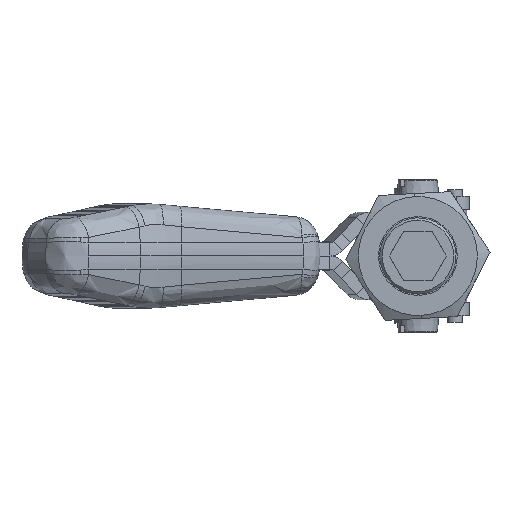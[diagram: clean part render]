
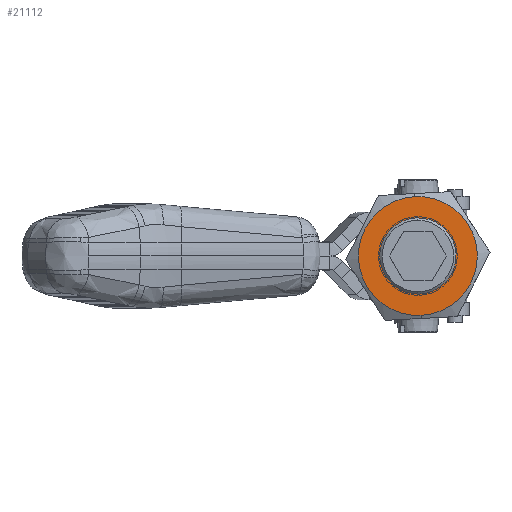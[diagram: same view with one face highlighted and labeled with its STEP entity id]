
A CAD part, left-side view. The second image highlights one B-rep face of the part: STEP entity #21112.
In plain terms, the highlighted planar face has unit normal (-1, 0, 0) as drawn and (0, 1, 0) by its records, which use the part's own axes.
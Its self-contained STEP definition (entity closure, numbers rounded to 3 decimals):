
#1471 = CARTESIAN_POINT ( 'NONE',  ( 0., 4., 0. ) ) ;
#2758 = EDGE_LOOP ( 'NONE', ( #40042, #33410 ) ) ;
#5077 = EDGE_LOOP ( 'NONE', ( #10229, #18580 ) ) ;
#7023 = CARTESIAN_POINT ( 'NONE',  ( 0., 4., 0. ) ) ;
#7475 = CARTESIAN_POINT ( 'NONE',  ( 0., 4., -7.75 ) ) ;
#8693 = DIRECTION ( 'NONE',  ( 0., -1., 0. ) ) ;
#8839 = CIRCLE ( 'NONE', #42208, 12.067 ) ;
#8877 = PLANE ( 'NONE',  #10932 ) ;
#9379 = VERTEX_POINT ( 'NONE', #29900 ) ;
#9584 = DIRECTION ( 'NONE',  ( 0., 0., 1. ) ) ;
#10229 = ORIENTED_EDGE ( 'NONE', *, *, #30725, .T. ) ;
#10932 = AXIS2_PLACEMENT_3D ( 'NONE', #16731, #19578, #9584 ) ;
#11071 = DIRECTION ( 'NONE',  ( 0., -1., 0. ) ) ;
#11534 = DIRECTION ( 'NONE',  ( 0., 0., 1. ) ) ;
#12528 = CARTESIAN_POINT ( 'NONE',  ( 0., 4., 0. ) ) ;
#13109 = CARTESIAN_POINT ( 'NONE',  ( 0., 4., 12.067 ) ) ;
#13125 = DIRECTION ( 'NONE',  ( 0., -1., 0. ) ) ;
#13198 = AXIS2_PLACEMENT_3D ( 'NONE', #13563, #38250, #13329 ) ;
#13329 = DIRECTION ( 'NONE',  ( 0., 0., 1. ) ) ;
#13563 = CARTESIAN_POINT ( 'NONE',  ( 0., 4., 0. ) ) ;
#15355 = CIRCLE ( 'NONE', #30493, 12.067 ) ;
#16090 = DIRECTION ( 'NONE',  ( 0., 0., -1. ) ) ;
#16731 = CARTESIAN_POINT ( 'NONE',  ( -7.332, 4., -12.7 ) ) ;
#18580 = ORIENTED_EDGE ( 'NONE', *, *, #25440, .T. ) ;
#19578 = DIRECTION ( 'NONE',  ( 0., 1., 0. ) ) ;
#21112 = ADVANCED_FACE ( 'NONE', ( #23385, #31448 ), #8877, .T. ) ;
#21471 = VERTEX_POINT ( 'NONE', #13109 ) ;
#23385 = FACE_BOUND ( 'NONE', #5077, .T. ) ;
#25440 = EDGE_CURVE ( 'NONE', #43008, #40933, #38971, .T. ) ;
#27146 = DIRECTION ( 'NONE',  ( 0., 0., -1. ) ) ;
#28190 = AXIS2_PLACEMENT_3D ( 'NONE', #7023, #11071, #11534 ) ;
#29900 = CARTESIAN_POINT ( 'NONE',  ( 0., 4., -12.067 ) ) ;
#30493 = AXIS2_PLACEMENT_3D ( 'NONE', #12528, #8693, #16090 ) ;
#30725 = EDGE_CURVE ( 'NONE', #40933, #43008, #38881, .T. ) ;
#31448 = FACE_OUTER_BOUND ( 'NONE', #2758, .T. ) ;
#33410 = ORIENTED_EDGE ( 'NONE', *, *, #45768, .F. ) ;
#34503 = CARTESIAN_POINT ( 'NONE',  ( 0., 4., 7.75 ) ) ;
#38250 = DIRECTION ( 'NONE',  ( 0., -1., 0. ) ) ;
#38881 = CIRCLE ( 'NONE', #28190, 7.75 ) ;
#38971 = CIRCLE ( 'NONE', #13198, 7.75 ) ;
#40042 = ORIENTED_EDGE ( 'NONE', *, *, #40950, .F. ) ;
#40933 = VERTEX_POINT ( 'NONE', #34503 ) ;
#40950 = EDGE_CURVE ( 'NONE', #9379, #21471, #8839, .T. ) ;
#42208 = AXIS2_PLACEMENT_3D ( 'NONE', #1471, #13125, #27146 ) ;
#43008 = VERTEX_POINT ( 'NONE', #7475 ) ;
#45768 = EDGE_CURVE ( 'NONE', #21471, #9379, #15355, .T. ) ;
